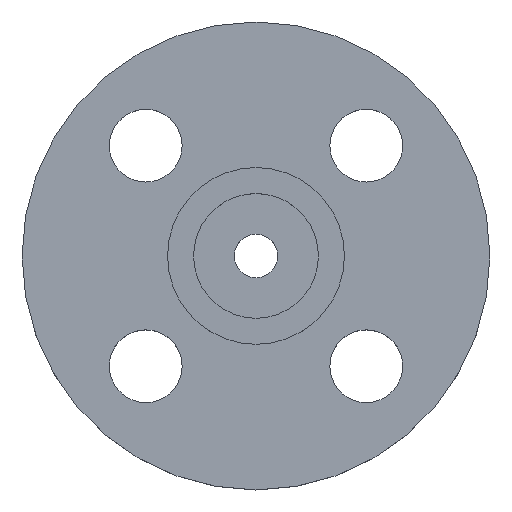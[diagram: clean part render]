
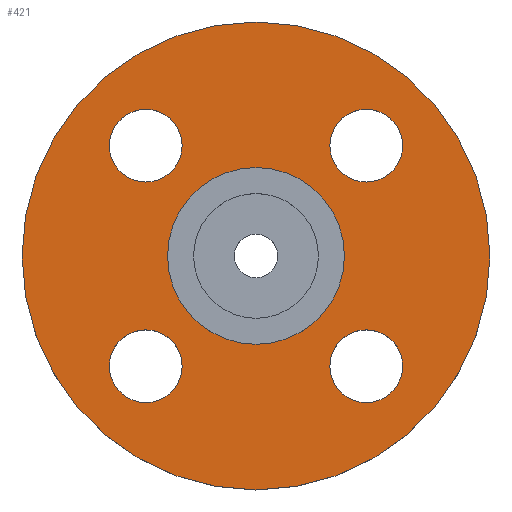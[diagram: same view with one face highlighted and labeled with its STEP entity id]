
A CAD part, top view. The second image highlights one B-rep face of the part: STEP entity #421.
In plain terms, the highlighted planar face has unit normal (0, 0, 1).
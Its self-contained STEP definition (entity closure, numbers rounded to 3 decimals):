
#9 = CIRCLE ( 'NONE', #10, 7. ) ;
#10 = AXIS2_PLACEMENT_3D ( 'NONE', #78, #77, #76 ) ;
#15 = AXIS2_PLACEMENT_3D ( 'NONE', #64, #63, #61 ) ;
#42 = AXIS2_PLACEMENT_3D ( 'NONE', #287, #288, #289 ) ;
#44 = CIRCLE ( 'NONE', #42, 17. ) ;
#51 = CIRCLE ( 'NONE', #15, 17. ) ;
#61 = DIRECTION ( 'NONE',  ( -1., 0., 0. ) ) ;
#63 = DIRECTION ( 'NONE',  ( 0., 0., -1. ) ) ;
#64 = CARTESIAN_POINT ( 'NONE',  ( 0., 0., -4.5 ) ) ;
#65 = CIRCLE ( 'NONE', #737, 7. ) ;
#68 = AXIS2_PLACEMENT_3D ( 'NONE', #760, #761, #762 ) ;
#76 = DIRECTION ( 'NONE',  ( 1., 0., 0. ) ) ;
#77 = DIRECTION ( 'NONE',  ( 0., 0., -1. ) ) ;
#78 = CARTESIAN_POINT ( 'NONE',  ( 21.213, -21.213, -4.5 ) ) ;
#92 = CIRCLE ( 'NONE', #364, 7. ) ;
#126 = CARTESIAN_POINT ( 'NONE',  ( 14.213, -21.213, -4.5 ) ) ;
#138 = CARTESIAN_POINT ( 'NONE',  ( -14.213, 21.213, -4.5 ) ) ;
#140 = CARTESIAN_POINT ( 'NONE',  ( 17., 0., -4.5 ) ) ;
#143 = CIRCLE ( 'NONE', #205, 7. ) ;
#144 = DIRECTION ( 'NONE',  ( 1., 0., 0. ) ) ;
#155 = CARTESIAN_POINT ( 'NONE',  ( -14.213, -21.213, -4.5 ) ) ;
#167 = CARTESIAN_POINT ( 'NONE',  ( -21.213, -21.213, -4.5 ) ) ;
#177 = EDGE_CURVE ( 'NONE', #655, #476, #357, .T. ) ;
#178 = CIRCLE ( 'NONE', #315, 7. ) ;
#191 = CARTESIAN_POINT ( 'NONE',  ( 28.213, 21.213, -4.5 ) ) ;
#205 = AXIS2_PLACEMENT_3D ( 'NONE', #449, #275, #265 ) ;
#206 = DIRECTION ( 'NONE',  ( 1., 0., 0. ) ) ;
#207 = EDGE_CURVE ( 'NONE', #529, #514, #362, .T. ) ;
#209 = DIRECTION ( 'NONE',  ( 0., 0., -1. ) ) ;
#211 = CARTESIAN_POINT ( 'NONE',  ( 21.213, -21.213, -4.5 ) ) ;
#230 = AXIS2_PLACEMENT_3D ( 'NONE', #404, #406, #407 ) ;
#241 = CARTESIAN_POINT ( 'NONE',  ( -45., 0., -4.5 ) ) ;
#242 = DIRECTION ( 'NONE',  ( 0., 0., -1. ) ) ;
#247 = CARTESIAN_POINT ( 'NONE',  ( 0., 0., -4.5 ) ) ;
#249 = CARTESIAN_POINT ( 'NONE',  ( -17., 0., -4.5 ) ) ;
#257 = CARTESIAN_POINT ( 'NONE',  ( 45., 0., -4.5 ) ) ;
#261 = CARTESIAN_POINT ( 'NONE',  ( -28.213, 21.213, -4.5 ) ) ;
#262 = DIRECTION ( 'NONE',  ( -1., 0., 0. ) ) ;
#265 = DIRECTION ( 'NONE',  ( 1., 0., 0. ) ) ;
#273 = CARTESIAN_POINT ( 'NONE',  ( -28.213, -21.213, -4.5 ) ) ;
#275 = DIRECTION ( 'NONE',  ( 0., 0., -1. ) ) ;
#279 = AXIS2_PLACEMENT_3D ( 'NONE', #211, #209, #206 ) ;
#280 = AXIS2_PLACEMENT_3D ( 'NONE', #439, #440, #441 ) ;
#281 = CIRCLE ( 'NONE', #279, 7. ) ;
#287 = CARTESIAN_POINT ( 'NONE',  ( 0., 0., -4.5 ) ) ;
#288 = DIRECTION ( 'NONE',  ( 0., 0., -1. ) ) ;
#289 = DIRECTION ( 'NONE',  ( -1., 0., 0. ) ) ;
#291 = CIRCLE ( 'NONE', #430, 45. ) ;
#315 = AXIS2_PLACEMENT_3D ( 'NONE', #167, #688, #397 ) ;
#325 = EDGE_CURVE ( 'NONE', #653, #477, #92, .T. ) ;
#354 = EDGE_CURVE ( 'NONE', #530, #668, #44, .T. ) ;
#357 = CIRCLE ( 'NONE', #68, 7. ) ;
#362 = CIRCLE ( 'NONE', #366, 45. ) ;
#364 = AXIS2_PLACEMENT_3D ( 'NONE', #801, #802, #144 ) ;
#366 = AXIS2_PLACEMENT_3D ( 'NONE', #770, #772, #773 ) ;
#390 = FACE_BOUND ( 'NONE', #499, .T. ) ;
#393 = FACE_BOUND ( 'NONE', #656, .T. ) ;
#395 = FACE_BOUND ( 'NONE', #685, .T. ) ;
#397 = DIRECTION ( 'NONE',  ( 1., 0., 0. ) ) ;
#399 = FACE_BOUND ( 'NONE', #659, .T. ) ;
#401 = FACE_BOUND ( 'NONE', #591, .T. ) ;
#402 = FACE_OUTER_BOUND ( 'NONE', #616, .T. ) ;
#403 = PLANE ( 'NONE',  #230 ) ;
#404 = CARTESIAN_POINT ( 'NONE',  ( 17., 0., -4.5 ) ) ;
#406 = DIRECTION ( 'NONE',  ( 0., 0., 1. ) ) ;
#407 = DIRECTION ( 'NONE',  ( 1., 0., 0. ) ) ;
#411 = CARTESIAN_POINT ( 'NONE',  ( 21.213, 21.213, -4.5 ) ) ;
#412 = DIRECTION ( 'NONE',  ( 0., 0., -1. ) ) ;
#414 = DIRECTION ( 'NONE',  ( 1., 0., 0. ) ) ;
#421 = ADVANCED_FACE ( 'NONE', ( #390, #393, #395, #399, #401, #402 ), #403, .T. ) ;
#430 = AXIS2_PLACEMENT_3D ( 'NONE', #247, #242, #262 ) ;
#439 = CARTESIAN_POINT ( 'NONE',  ( -21.213, 21.213, -4.5 ) ) ;
#440 = DIRECTION ( 'NONE',  ( 0., 0., -1. ) ) ;
#441 = DIRECTION ( 'NONE',  ( 1., 0., 0. ) ) ;
#449 = CARTESIAN_POINT ( 'NONE',  ( -21.213, 21.213, -4.5 ) ) ;
#451 = EDGE_CURVE ( 'NONE', #477, #653, #65, .T. ) ;
#463 = CARTESIAN_POINT ( 'NONE',  ( 28.213, -21.213, -4.5 ) ) ;
#466 = CARTESIAN_POINT ( 'NONE',  ( 14.213, 21.213, -4.5 ) ) ;
#473 = EDGE_CURVE ( 'NONE', #481, #673, #641, .T. ) ;
#475 = EDGE_CURVE ( 'NONE', #673, #481, #143, .T. ) ;
#476 = VERTEX_POINT ( 'NONE', #273 ) ;
#477 = VERTEX_POINT ( 'NONE', #466 ) ;
#478 = ORIENTED_EDGE ( 'NONE', *, *, #354, .T. ) ;
#481 = VERTEX_POINT ( 'NONE', #261 ) ;
#496 = ORIENTED_EDGE ( 'NONE', *, *, #451, .T. ) ;
#499 = EDGE_LOOP ( 'NONE', ( #563, #564 ) ) ;
#513 = EDGE_CURVE ( 'NONE', #514, #529, #291, .T. ) ;
#514 = VERTEX_POINT ( 'NONE', #241 ) ;
#529 = VERTEX_POINT ( 'NONE', #257 ) ;
#530 = VERTEX_POINT ( 'NONE', #249 ) ;
#541 = VERTEX_POINT ( 'NONE', #463 ) ;
#563 = ORIENTED_EDGE ( 'NONE', *, *, #583, .T. ) ;
#564 = ORIENTED_EDGE ( 'NONE', *, *, #745, .T. ) ;
#566 = ORIENTED_EDGE ( 'NONE', *, *, #177, .T. ) ;
#567 = ORIENTED_EDGE ( 'NONE', *, *, #605, .T. ) ;
#568 = ORIENTED_EDGE ( 'NONE', *, *, #475, .T. ) ;
#570 = ORIENTED_EDGE ( 'NONE', *, *, #473, .T. ) ;
#571 = ORIENTED_EDGE ( 'NONE', *, *, #781, .T. ) ;
#572 = ORIENTED_EDGE ( 'NONE', *, *, #207, .F. ) ;
#574 = ORIENTED_EDGE ( 'NONE', *, *, #513, .F. ) ;
#583 = EDGE_CURVE ( 'NONE', #541, #644, #281, .T. ) ;
#591 = EDGE_LOOP ( 'NONE', ( #478, #571 ) ) ;
#594 = ORIENTED_EDGE ( 'NONE', *, *, #325, .T. ) ;
#605 = EDGE_CURVE ( 'NONE', #476, #655, #178, .T. ) ;
#616 = EDGE_LOOP ( 'NONE', ( #572, #574 ) ) ;
#641 = CIRCLE ( 'NONE', #280, 7. ) ;
#644 = VERTEX_POINT ( 'NONE', #126 ) ;
#653 = VERTEX_POINT ( 'NONE', #191 ) ;
#655 = VERTEX_POINT ( 'NONE', #155 ) ;
#656 = EDGE_LOOP ( 'NONE', ( #566, #567 ) ) ;
#659 = EDGE_LOOP ( 'NONE', ( #594, #496 ) ) ;
#668 = VERTEX_POINT ( 'NONE', #140 ) ;
#673 = VERTEX_POINT ( 'NONE', #138 ) ;
#685 = EDGE_LOOP ( 'NONE', ( #568, #570 ) ) ;
#688 = DIRECTION ( 'NONE',  ( 0., 0., -1. ) ) ;
#737 = AXIS2_PLACEMENT_3D ( 'NONE', #411, #412, #414 ) ;
#745 = EDGE_CURVE ( 'NONE', #644, #541, #9, .T. ) ;
#760 = CARTESIAN_POINT ( 'NONE',  ( -21.213, -21.213, -4.5 ) ) ;
#761 = DIRECTION ( 'NONE',  ( 0., 0., -1. ) ) ;
#762 = DIRECTION ( 'NONE',  ( 1., 0., 0. ) ) ;
#770 = CARTESIAN_POINT ( 'NONE',  ( 0., 0., -4.5 ) ) ;
#772 = DIRECTION ( 'NONE',  ( 0., 0., -1. ) ) ;
#773 = DIRECTION ( 'NONE',  ( -1., 0., 0. ) ) ;
#781 = EDGE_CURVE ( 'NONE', #668, #530, #51, .T. ) ;
#801 = CARTESIAN_POINT ( 'NONE',  ( 21.213, 21.213, -4.5 ) ) ;
#802 = DIRECTION ( 'NONE',  ( 0., 0., -1. ) ) ;
